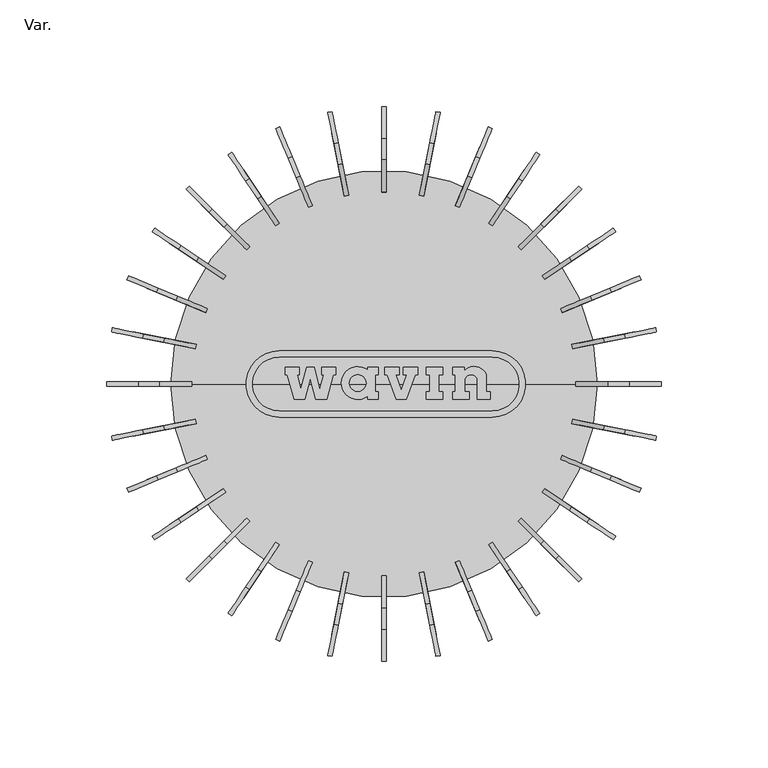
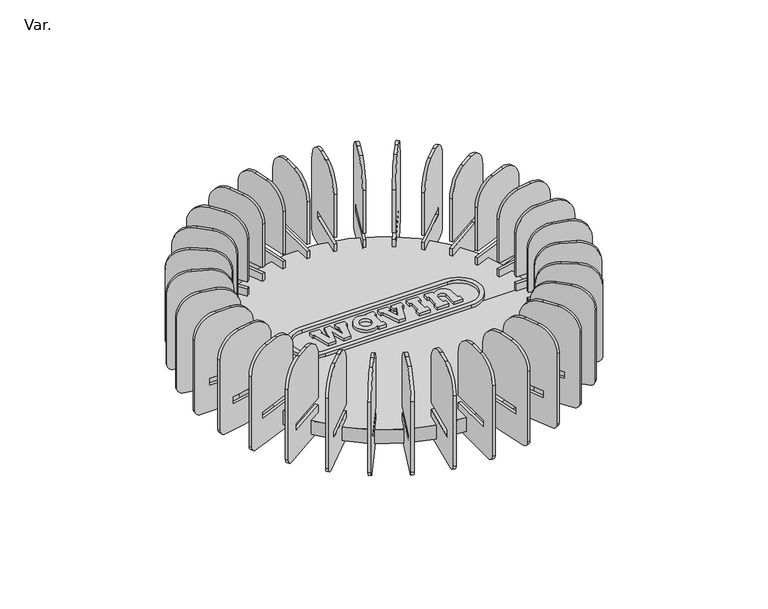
"""IFC4 building model written with IfcOpenShell, lengths in millimetres: sanitary terminal geometry, AmancoWavin_AquipamentosHidráulicos_QSBocaldeCaptação : Var.."""

from ifc_helpers import new_model, si_unit, point, frame, frame_2d, origin, place, context, project, spatial, polyline, circle_curve, trimmed, segment, composite_curve, outline, extrude, source, transform, mapped, element, save
from ifc_brep_helpers import plane_surface, cylinder_surface, advanced_brep


def var_c5092817(model_context):
    return source(origin(), model_context, "Body", "SolidModel", [
        extrude(outline(composite_curve([segment(trimmed(circle_curve(frame_2d((0.0, -4.0)), 4.0), [point((-4.0, -4.0))], [point((0.0, 0.0))], False, "CARTESIAN"), True, "CONTINUOUS"), segment(polyline([(0.0, 0.0), (15.0, 0.0), (15.0, -29.9999999), (20.0, -29.9999999), (20.0, 0.0), (51.0, 0.0)]), True, "CONTINUOUS"), segment(trimmed(circle_curve(frame_2d((51.0, -14.9999999)), 15.0), [point((51.0, 0.0))], [point((66.0, -14.9999999))], False, "CARTESIAN"), True, "CONTINUOUS"), segment(polyline([(66.0, -14.9999999), (66.0, -25.0)]), True, "CONTINUOUS"), segment(trimmed(circle_curve(frame_2d((51.0, -25.0)), 15.0), [point((66.0, -25.0))], [point((51.0, -40.0))], False, "CARTESIAN"), True, "CONTINUOUS"), segment(polyline([(51.0, -40.0), (0.0, -40.0)]), True, "CONTINUOUS"), segment(trimmed(circle_curve(frame_2d((0.0, -35.9999999)), 4.0), [point((0.0, -40.0))], [point((-4.0, -35.9999999))], False, "CARTESIAN"), True, "CONTINUOUS"), segment(polyline([(-4.0, -35.9999999), (-4.0, -4.0)]), True, "CONTINUOUS")], self_intersect=False)), frame((-83.5318414, 33.5176294, 4.0), z_axis=(0.3826834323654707, 0.9238795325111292, 0.0), x_axis=(0.0, 0.0, 1.0)), (0.0, 0.0, 1.0), 2.0),
        extrude(outline(composite_curve([segment(trimmed(circle_curve(frame_2d((0.0, -4.0)), 4.0), [point((-4.0, -4.0))], [point((0.0, 0.0))], False, "CARTESIAN"), True, "CONTINUOUS"), segment(polyline([(0.0, 0.0), (15.0, 0.0), (15.0, -30.0), (20.0, -30.0), (20.0, 0.0), (51.0, 0.0)]), True, "CONTINUOUS"), segment(trimmed(circle_curve(frame_2d((51.0, -15.0)), 15.0), [point((51.0, 0.0))], [point((66.0, -15.0))], False, "CARTESIAN"), True, "CONTINUOUS"), segment(polyline([(66.0, -15.0), (66.0, -25.0)]), True, "CONTINUOUS"), segment(trimmed(circle_curve(frame_2d((51.0, -25.0)), 15.0), [point((66.0, -25.0))], [point((51.0, -40.0))], False, "CARTESIAN"), True, "CONTINUOUS"), segment(polyline([(51.0, -40.0), (0.0, -40.0)]), True, "CONTINUOUS"), segment(trimmed(circle_curve(frame_2d((0.0, -36.0)), 4.0), [point((0.0, -40.0))], [point((-4.0, -36.0))], False, "CARTESIAN"), True, "CONTINUOUS"), segment(polyline([(-4.0, -36.0), (-4.0, -4.0)]), True, "CONTINUOUS")], self_intersect=False)), frame((-75.3878353, 49.1698514, 4.0), z_axis=(0.5555702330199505, 0.8314696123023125, 0.0), x_axis=(0.0, 0.0, 1.0)), (0.0, 0.0, 1.0), 2.0),
        extrude(outline(composite_curve([segment(trimmed(circle_curve(frame_2d((0.0, -4.0)), 4.0), [point((-4.0, -4.0))], [point((0.0, 0.0))], False, "CARTESIAN"), True, "CONTINUOUS"), segment(polyline([(0.0, 0.0), (15.0, 0.0), (15.0, -30.0), (20.0, -30.0), (20.0, 0.0), (51.0, 0.0)]), True, "CONTINUOUS"), segment(trimmed(circle_curve(frame_2d((51.0, -15.0)), 15.0), [point((51.0, 0.0))], [point((66.0, -15.0))], False, "CARTESIAN"), True, "CONTINUOUS"), segment(polyline([(66.0, -15.0), (66.0, -25.0)]), True, "CONTINUOUS"), segment(trimmed(circle_curve(frame_2d((51.0, -25.0)), 15.0), [point((66.0, -25.0))], [point((51.0, -40.0))], False, "CARTESIAN"), True, "CONTINUOUS"), segment(polyline([(51.0, -40.0), (0.0, -40.0)]), True, "CONTINUOUS"), segment(trimmed(circle_curve(frame_2d((0.0, -36.0)), 4.0), [point((0.0, -40.0))], [point((-4.0, -36.0))], False, "CARTESIAN"), True, "CONTINUOUS"), segment(polyline([(-4.0, -36.0), (-4.0, -4.0)]), True, "CONTINUOUS")], self_intersect=False)), frame((-64.3467171, 62.9325035, 4.0), z_axis=(0.7071067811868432, 0.7071067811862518, 0.0), x_axis=(0.0, 0.0, 1.0)), (0.0, 0.0, 1.0), 2.0),
        extrude(outline(composite_curve([segment(trimmed(circle_curve(frame_2d((0.0, -3.9999999)), 4.0), [point((-4.0, -3.9999999))], [point((0.0, 0.0))], False, "CARTESIAN"), True, "CONTINUOUS"), segment(polyline([(0.0, 0.0), (15.0, 0.0), (15.0, -29.9999999), (20.0, -29.9999999), (20.0, 0.0), (51.0, 0.0)]), True, "CONTINUOUS"), segment(trimmed(circle_curve(frame_2d((51.0, -15.0)), 15.0), [point((51.0, 0.0))], [point((66.0, -15.0))], False, "CARTESIAN"), True, "CONTINUOUS"), segment(polyline([(66.0, -15.0), (66.0, -25.0)]), True, "CONTINUOUS"), segment(trimmed(circle_curve(frame_2d((51.0, -25.0)), 15.0), [point((66.0, -25.0))], [point((51.0, -40.0))], False, "CARTESIAN"), True, "CONTINUOUS"), segment(polyline([(51.0, -40.0), (0.0, -40.0)]), True, "CONTINUOUS"), segment(trimmed(circle_curve(frame_2d((0.0, -36.0)), 4.0), [point((0.0, -40.0))], [point((-4.0, -36.0))], False, "CARTESIAN"), True, "CONTINUOUS"), segment(polyline([(-4.0, -36.0), (-4.0, -3.9999999)]), True, "CONTINUOUS")], self_intersect=False)), frame((-50.8327906, 74.2766949, 4.0), z_axis=(0.8314696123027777, 0.5555702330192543, 0.0), x_axis=(0.0, 0.0, 1.0)), (0.0, 0.0, 1.0), 2.0),
        extrude(outline(composite_curve([segment(trimmed(circle_curve(frame_2d((0.0, -4.0)), 4.0), [point((-4.0, -4.0))], [point((0.0, 0.0))], False, "CARTESIAN"), True, "CONTINUOUS"), segment(polyline([(0.0, 0.0), (15.0, 0.0), (15.0, -30.0), (20.0, -30.0), (20.0, 0.0), (51.0, 0.0)]), True, "CONTINUOUS"), segment(trimmed(circle_curve(frame_2d((51.0, -15.0)), 15.0), [point((51.0, 0.0))], [point((66.0, -15.0))], False, "CARTESIAN"), True, "CONTINUOUS"), segment(polyline([(66.0, -15.0), (66.0, -25.0)]), True, "CONTINUOUS"), segment(trimmed(circle_curve(frame_2d((51.0, -25.0)), 15.0), [point((66.0, -25.0))], [point((51.0, -40.0))], False, "CARTESIAN"), True, "CONTINUOUS"), segment(polyline([(51.0, -40.0), (0.0, -40.0)]), True, "CONTINUOUS"), segment(trimmed(circle_curve(frame_2d((0.0, -36.0)), 4.0), [point((0.0, -40.0))], [point((-4.0, -36.0))], False, "CARTESIAN"), True, "CONTINUOUS"), segment(polyline([(-4.0, -36.0), (-4.0, -4.0)]), True, "CONTINUOUS")], self_intersect=False)), frame((-35.3653884, 82.7664745, 4.0), z_axis=(0.9238795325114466, 0.3826834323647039, 0.0), x_axis=(0.0, 0.0, 1.0)), (0.0, 0.0, 1.0), 2.0),
        extrude(outline(composite_curve([segment(trimmed(circle_curve(frame_2d((0.0, -4.0)), 4.0), [point((-4.0, -4.0))], [point((0.0, 0.0))], False, "CARTESIAN"), True, "CONTINUOUS"), segment(polyline([(0.0, 0.0), (15.0, 0.0), (15.0, -30.0), (20.0, -30.0), (20.0, 0.0), (51.0, 0.0)]), True, "CONTINUOUS"), segment(trimmed(circle_curve(frame_2d((51.0, -15.0)), 15.0), [point((51.0, 0.0))], [point((66.0, -15.0))], False, "CARTESIAN"), True, "CONTINUOUS"), segment(polyline([(66.0, -15.0), (66.0, -25.0)]), True, "CONTINUOUS"), segment(trimmed(circle_curve(frame_2d((51.0, -25.0)), 15.0), [point((66.0, -25.0))], [point((51.0, -40.0))], False, "CARTESIAN"), True, "CONTINUOUS"), segment(polyline([(51.0, -40.0), (0.0, -40.0)]), True, "CONTINUOUS"), segment(trimmed(circle_curve(frame_2d((0.0, -36.0)), 4.0), [point((0.0, -40.0))], [point((-4.0, -36.0))], False, "CARTESIAN"), True, "CONTINUOUS"), segment(polyline([(-4.0, -36.0), (-4.0, -4.0)]), True, "CONTINUOUS")], self_intersect=False)), frame((-18.5389143, 88.0755849, 4.0), z_axis=(0.980785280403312, 0.19509032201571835, 0.0), x_axis=(0.0, 0.0, 1.0)), (0.0, 0.0, 1.0), 2.0),
        extrude(outline(composite_curve([segment(trimmed(circle_curve(frame_2d((94.0, 4.0)), 4.0), [point((94.0, 0.0))], [point((90.0, 4.0))], False, "CARTESIAN"), True, "CONTINUOUS"), segment(polyline([(90.0, 4.0), (90.0, 19.0), (120.0, 19.0), (120.0, 24.0), (90.0, 24.0), (90.0, 55.0)]), True, "CONTINUOUS"), segment(trimmed(circle_curve(frame_2d((105.0, 55.0)), 15.0), [point((90.0, 55.0))], [point((105.0, 70.0))], False, "CARTESIAN"), True, "CONTINUOUS"), segment(polyline([(105.0, 70.0), (115.0, 70.0)]), True, "CONTINUOUS"), segment(trimmed(circle_curve(frame_2d((115.0, 55.0)), 15.0), [point((115.0, 70.0))], [point((130.0, 55.0))], False, "CARTESIAN"), True, "CONTINUOUS"), segment(polyline([(130.0, 55.0), (130.0, 4.0)]), True, "CONTINUOUS"), segment(trimmed(circle_curve(frame_2d((126.0, 4.0)), 4.0), [point((130.0, 4.0))], [point((126.0, 0.0))], False, "CARTESIAN"), True, "CONTINUOUS"), segment(polyline([(126.0, 0.0), (94.0, 0.0)]), True, "CONTINUOUS")], self_intersect=False)), frame((-1.0, 0.0, 0.0), z_axis=(1.0, 0.0, 0.0), x_axis=(0.0, 1.0, 0.0)), (0.0, 0.0, 1.0), 2.0),
        extrude(outline(composite_curve([segment(polyline([(4.0, -4.0), (4.0, -36.0)]), True, "CONTINUOUS"), segment(trimmed(circle_curve(frame_2d((0.0, -36.0)), 4.0), [point((4.0, -36.0))], [point((0.0, -40.0))], False, "CARTESIAN"), True, "CONTINUOUS"), segment(polyline([(0.0, -40.0), (-51.0, -40.0)]), True, "CONTINUOUS"), segment(trimmed(circle_curve(frame_2d((-51.0, -25.0)), 15.0), [point((-51.0, -40.0))], [point((-66.0, -25.0))], False, "CARTESIAN"), True, "CONTINUOUS"), segment(polyline([(-66.0, -25.0), (-66.0, -15.0)]), True, "CONTINUOUS"), segment(trimmed(circle_curve(frame_2d((-51.0, -15.0)), 15.0), [point((-66.0, -15.0))], [point((-51.0, 0.0))], False, "CARTESIAN"), True, "CONTINUOUS"), segment(polyline([(-51.0, 0.0), (-20.0, 0.0), (-20.0, -30.0), (-15.0, -30.0), (-15.0, 0.0), (0.0, 0.0)]), True, "CONTINUOUS"), segment(trimmed(circle_curve(frame_2d((0.0, -4.0)), 4.0), [point((0.0, 0.0))], [point((4.0, -4.0))], False, "CARTESIAN"), True, "CONTINUOUS")], self_intersect=False)), frame((18.5389143, 88.0755849, 4.0), z_axis=(-0.9807852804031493, 0.19509032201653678, 0.0), x_axis=(0.0, 0.0, -1.0)), (0.0, 0.0, 1.0), 2.0),
        extrude(outline(composite_curve([segment(polyline([(4.0, -4.0), (4.0, -36.0)]), True, "CONTINUOUS"), segment(trimmed(circle_curve(frame_2d((0.0, -36.0)), 4.0), [point((4.0, -36.0))], [point((0.0, -40.0))], False, "CARTESIAN"), True, "CONTINUOUS"), segment(polyline([(0.0, -40.0), (-51.0, -40.0)]), True, "CONTINUOUS"), segment(trimmed(circle_curve(frame_2d((-51.0, -25.0)), 15.0), [point((-51.0, -40.0))], [point((-66.0, -25.0))], False, "CARTESIAN"), True, "CONTINUOUS"), segment(polyline([(-66.0, -25.0), (-66.0, -15.0)]), True, "CONTINUOUS"), segment(trimmed(circle_curve(frame_2d((-51.0, -15.0)), 15.0), [point((-66.0, -15.0))], [point((-51.0, 0.0))], False, "CARTESIAN"), True, "CONTINUOUS"), segment(polyline([(-51.0, 0.0), (-20.0, 0.0), (-20.0, -30.0), (-15.0, -30.0), (-15.0, 0.0), (0.0, 0.0)]), True, "CONTINUOUS"), segment(trimmed(circle_curve(frame_2d((0.0, -4.0)), 4.0), [point((0.0, 0.0))], [point((4.0, -4.0))], False, "CARTESIAN"), True, "CONTINUOUS")], self_intersect=False)), frame((35.3653884, 82.7664745, 4.0), z_axis=(-0.9238795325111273, 0.38268343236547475, 0.0), x_axis=(0.0, 0.0, -1.0)), (0.0, 0.0, 1.0), 2.0),
        extrude(outline(composite_curve([segment(polyline([(4.0, -3.9999999), (4.0, -36.0)]), True, "CONTINUOUS"), segment(trimmed(circle_curve(frame_2d((0.0, -36.0)), 4.0), [point((4.0, -36.0))], [point((0.0, -40.0))], False, "CARTESIAN"), True, "CONTINUOUS"), segment(polyline([(0.0, -40.0), (-51.0, -40.0)]), True, "CONTINUOUS"), segment(trimmed(circle_curve(frame_2d((-51.0, -25.0)), 15.0), [point((-51.0, -40.0))], [point((-66.0, -25.0))], False, "CARTESIAN"), True, "CONTINUOUS"), segment(polyline([(-66.0, -25.0), (-66.0, -15.0)]), True, "CONTINUOUS"), segment(trimmed(circle_curve(frame_2d((-51.0, -15.0)), 15.0), [point((-66.0, -15.0))], [point((-51.0, 0.0))], False, "CARTESIAN"), True, "CONTINUOUS"), segment(polyline([(-51.0, 0.0), (-20.0, 0.0), (-20.0, -29.9999999), (-15.0, -29.9999999), (-15.0, 0.0), (0.0, 0.0)]), True, "CONTINUOUS"), segment(trimmed(circle_curve(frame_2d((0.0, -3.9999999)), 4.0), [point((0.0, 0.0))], [point((4.0, -3.9999999))], False, "CARTESIAN"), True, "CONTINUOUS")], self_intersect=False)), frame((50.8327906, 74.2766949, 4.0), z_axis=(-0.8314696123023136, 0.5555702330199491, 0.0), x_axis=(0.0, 0.0, -1.0)), (0.0, 0.0, 1.0), 2.0),
        extrude(outline(composite_curve([segment(polyline([(4.0, -4.0), (4.0, -36.0)]), True, "CONTINUOUS"), segment(trimmed(circle_curve(frame_2d((0.0, -36.0)), 4.0), [point((4.0, -36.0))], [point((0.0, -40.0))], False, "CARTESIAN"), True, "CONTINUOUS"), segment(polyline([(0.0, -40.0), (-51.0, -40.0)]), True, "CONTINUOUS"), segment(trimmed(circle_curve(frame_2d((-51.0, -25.0)), 15.0), [point((-51.0, -40.0))], [point((-66.0, -25.0))], False, "CARTESIAN"), True, "CONTINUOUS"), segment(polyline([(-66.0, -25.0), (-66.0, -15.0)]), True, "CONTINUOUS"), segment(trimmed(circle_curve(frame_2d((-51.0, -15.0)), 15.0), [point((-66.0, -15.0))], [point((-51.0, 0.0))], False, "CARTESIAN"), True, "CONTINUOUS"), segment(polyline([(-51.0, 0.0), (-20.0, 0.0), (-20.0, -30.0), (-15.0, -30.0), (-15.0, 0.0), (0.0, 0.0)]), True, "CONTINUOUS"), segment(trimmed(circle_curve(frame_2d((0.0, -4.0)), 4.0), [point((0.0, 0.0))], [point((4.0, -4.0))], False, "CARTESIAN"), True, "CONTINUOUS")], self_intersect=False)), frame((64.3467171, 62.9325035, 4.0), z_axis=(-0.7071067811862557, 0.7071067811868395, 0.0), x_axis=(0.0, 0.0, -1.0)), (0.0, 0.0, 1.0), 2.0),
        extrude(outline(composite_curve([segment(polyline([(4.0, -4.0), (4.0, -36.0)]), True, "CONTINUOUS"), segment(trimmed(circle_curve(frame_2d((0.0, -36.0)), 4.0), [point((4.0, -36.0))], [point((0.0, -40.0))], False, "CARTESIAN"), True, "CONTINUOUS"), segment(polyline([(0.0, -40.0), (-51.0, -40.0)]), True, "CONTINUOUS"), segment(trimmed(circle_curve(frame_2d((-51.0, -25.0)), 15.0), [point((-51.0, -40.0))], [point((-66.0, -25.0))], False, "CARTESIAN"), True, "CONTINUOUS"), segment(polyline([(-66.0, -25.0), (-66.0, -15.0)]), True, "CONTINUOUS"), segment(trimmed(circle_curve(frame_2d((-51.0, -15.0)), 15.0), [point((-66.0, -15.0))], [point((-51.0, 0.0))], False, "CARTESIAN"), True, "CONTINUOUS"), segment(polyline([(-51.0, 0.0), (-20.0, 0.0), (-20.0, -30.0), (-15.0, -30.0), (-15.0, 0.0), (0.0, 0.0)]), True, "CONTINUOUS"), segment(trimmed(circle_curve(frame_2d((0.0, -4.0)), 4.0), [point((0.0, 0.0))], [point((4.0, -4.0))], False, "CARTESIAN"), True, "CONTINUOUS")], self_intersect=False)), frame((75.3878353, 49.1698514, 4.0), z_axis=(-0.5555702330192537, 0.8314696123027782, 0.0), x_axis=(0.0, 0.0, -1.0)), (0.0, 0.0, 1.0), 2.0),
        extrude(outline(composite_curve([segment(polyline([(4.0, -4.0), (4.0, -35.9999999)]), True, "CONTINUOUS"), segment(trimmed(circle_curve(frame_2d((0.0, -35.9999999)), 4.0), [point((4.0, -35.9999999))], [point((0.0, -40.0))], False, "CARTESIAN"), True, "CONTINUOUS"), segment(polyline([(0.0, -40.0), (-51.0, -40.0)]), True, "CONTINUOUS"), segment(trimmed(circle_curve(frame_2d((-51.0, -25.0)), 15.0), [point((-51.0, -40.0))], [point((-66.0, -25.0))], False, "CARTESIAN"), True, "CONTINUOUS"), segment(polyline([(-66.0, -25.0), (-66.0, -14.9999999)]), True, "CONTINUOUS"), segment(trimmed(circle_curve(frame_2d((-51.0, -14.9999999)), 15.0), [point((-66.0, -14.9999999))], [point((-51.0, 0.0))], False, "CARTESIAN"), True, "CONTINUOUS"), segment(polyline([(-51.0, 0.0), (-20.0, 0.0), (-20.0, -29.9999999), (-15.0, -29.9999999), (-15.0, 0.0), (0.0, 0.0)]), True, "CONTINUOUS"), segment(trimmed(circle_curve(frame_2d((0.0, -4.0)), 4.0), [point((0.0, 0.0))], [point((4.0, -4.0))], False, "CARTESIAN"), True, "CONTINUOUS")], self_intersect=False)), frame((83.5318414, 33.5176294, 4.0), z_axis=(-0.38268343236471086, 0.9238795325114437, 0.0), x_axis=(0.0, 0.0, -1.0)), (0.0, 0.0, 1.0), 2.0),
        extrude(outline(composite_curve([segment(polyline([(4.0, -4.0), (4.0, -36.0)]), True, "CONTINUOUS"), segment(trimmed(circle_curve(frame_2d((0.0, -36.0)), 4.0), [point((4.0, -36.0))], [point((0.0, -40.0))], False, "CARTESIAN"), True, "CONTINUOUS"), segment(polyline([(0.0, -40.0), (-51.0, -40.0)]), True, "CONTINUOUS"), segment(trimmed(circle_curve(frame_2d((-51.0, -25.0)), 15.0), [point((-51.0, -40.0))], [point((-66.0, -25.0))], False, "CARTESIAN"), True, "CONTINUOUS"), segment(polyline([(-66.0, -25.0), (-66.0, -15.0)]), True, "CONTINUOUS"), segment(trimmed(circle_curve(frame_2d((-51.0, -15.0)), 15.0), [point((-66.0, -15.0))], [point((-51.0, 0.0))], False, "CARTESIAN"), True, "CONTINUOUS"), segment(polyline([(-51.0, 0.0), (-20.0, 0.0), (-20.0, -30.0), (-15.0, -30.0), (-15.0, 0.0), (0.0, 0.0)]), True, "CONTINUOUS"), segment(trimmed(circle_curve(frame_2d((0.0, -4.0)), 4.0), [point((0.0, 0.0))], [point((4.0, -4.0))], False, "CARTESIAN"), True, "CONTINUOUS")], self_intersect=False)), frame((88.4657656, 16.5773437, 4.0), z_axis=(-0.19509032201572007, 0.9807852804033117, 0.0), x_axis=(0.0, 0.0, -1.0)), (0.0, 0.0, 1.0), 2.0),
        extrude(outline(composite_curve([segment(polyline([(0.0, 94.0), (0.0, 126.0)]), True, "CONTINUOUS"), segment(trimmed(circle_curve(frame_2d((4.0, 126.0)), 4.0), [point((0.0, 126.0))], [point((4.0, 130.0))], False, "CARTESIAN"), True, "CONTINUOUS"), segment(polyline([(4.0, 130.0), (55.0, 130.0)]), True, "CONTINUOUS"), segment(trimmed(circle_curve(frame_2d((55.0, 115.0)), 15.0), [point((55.0, 130.0))], [point((70.0, 115.0))], False, "CARTESIAN"), True, "CONTINUOUS"), segment(polyline([(70.0, 115.0), (70.0, 105.0)]), True, "CONTINUOUS"), segment(trimmed(circle_curve(frame_2d((55.0, 105.0)), 15.0), [point((70.0, 105.0))], [point((55.0, 90.0))], False, "CARTESIAN"), True, "CONTINUOUS"), segment(polyline([(55.0, 90.0), (24.0, 90.0), (24.0, 120.0), (19.0, 120.0), (19.0, 90.0), (4.0, 90.0)]), True, "CONTINUOUS"), segment(trimmed(circle_curve(frame_2d((4.0, 94.0)), 4.0), [point((4.0, 90.0))], [point((0.0, 94.0))], False, "CARTESIAN"), True, "CONTINUOUS")], self_intersect=False)), frame((0.0, -1.0, 0.0), z_axis=(0.0, 1.0, 0.0), x_axis=(0.0, 0.0, 1.0)), (0.0, 0.0, 1.0), 2.0),
        extrude(outline(composite_curve([segment(polyline([(4.0, -4.0), (4.0, -36.0)]), True, "CONTINUOUS"), segment(trimmed(circle_curve(frame_2d((0.0, -36.0)), 4.0), [point((4.0, -36.0))], [point((0.0, -40.0))], False, "CARTESIAN"), True, "CONTINUOUS"), segment(polyline([(0.0, -40.0), (-51.0, -40.0)]), True, "CONTINUOUS"), segment(trimmed(circle_curve(frame_2d((-51.0, -25.0)), 15.0), [point((-51.0, -40.0))], [point((-66.0, -25.0))], False, "CARTESIAN"), True, "CONTINUOUS"), segment(polyline([(-66.0, -25.0), (-66.0, -15.0)]), True, "CONTINUOUS"), segment(trimmed(circle_curve(frame_2d((-51.0, -15.0)), 15.0), [point((-66.0, -15.0))], [point((-51.0, 0.0))], False, "CARTESIAN"), True, "CONTINUOUS"), segment(polyline([(-51.0, 0.0), (-20.0, 0.0), (-20.0, -30.0), (-15.0, -30.0), (-15.0, 0.0), (0.0, 0.0)]), True, "CONTINUOUS"), segment(trimmed(circle_curve(frame_2d((0.0, -4.0)), 4.0), [point((0.0, 0.0))], [point((4.0, -4.0))], False, "CARTESIAN"), True, "CONTINUOUS")], self_intersect=False)), frame((88.0755849, -18.5389143, 4.0), z_axis=(0.19509032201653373, 0.9807852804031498, 0.0), x_axis=(0.0, 0.0, -1.0)), (0.0, 0.0, 1.0), 2.0),
        extrude(outline(composite_curve([segment(polyline([(4.0, -4.0), (4.0, -36.0)]), True, "CONTINUOUS"), segment(trimmed(circle_curve(frame_2d((0.0, -36.0)), 4.0), [point((4.0, -36.0))], [point((0.0, -40.0))], False, "CARTESIAN"), True, "CONTINUOUS"), segment(polyline([(0.0, -40.0), (-51.0, -40.0)]), True, "CONTINUOUS"), segment(trimmed(circle_curve(frame_2d((-51.0, -25.0)), 15.0), [point((-51.0, -40.0))], [point((-66.0, -25.0))], False, "CARTESIAN"), True, "CONTINUOUS"), segment(polyline([(-66.0, -25.0), (-66.0, -15.0)]), True, "CONTINUOUS"), segment(trimmed(circle_curve(frame_2d((-51.0, -15.0)), 15.0), [point((-66.0, -15.0))], [point((-51.0, 0.0))], False, "CARTESIAN"), True, "CONTINUOUS"), segment(polyline([(-51.0, 0.0), (-20.0, 0.0), (-20.0, -30.0), (-15.0, -30.0), (-15.0, 0.0), (0.0, 0.0)]), True, "CONTINUOUS"), segment(trimmed(circle_curve(frame_2d((0.0, -4.0)), 4.0), [point((0.0, 0.0))], [point((4.0, -4.0))], False, "CARTESIAN"), True, "CONTINUOUS")], self_intersect=False)), frame((82.7664745, -35.3653884, 4.0), z_axis=(0.3826834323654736, 0.9238795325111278, 0.0), x_axis=(0.0, 0.0, -1.0)), (0.0, 0.0, 1.0), 2.0),
        extrude(outline(composite_curve([segment(polyline([(4.0, -3.9999999), (4.0, -36.0)]), True, "CONTINUOUS"), segment(trimmed(circle_curve(frame_2d((0.0, -36.0)), 4.0), [point((4.0, -36.0))], [point((0.0, -40.0))], False, "CARTESIAN"), True, "CONTINUOUS"), segment(polyline([(0.0, -40.0), (-51.0, -40.0)]), True, "CONTINUOUS"), segment(trimmed(circle_curve(frame_2d((-51.0, -25.0)), 15.0), [point((-51.0, -40.0))], [point((-66.0, -25.0))], False, "CARTESIAN"), True, "CONTINUOUS"), segment(polyline([(-66.0, -25.0), (-66.0, -15.0)]), True, "CONTINUOUS"), segment(trimmed(circle_curve(frame_2d((-51.0, -15.0)), 15.0), [point((-66.0, -15.0))], [point((-51.0, 0.0))], False, "CARTESIAN"), True, "CONTINUOUS"), segment(polyline([(-51.0, 0.0), (-20.0, 0.0), (-20.0, -29.9999999), (-15.0, -29.9999999), (-15.0, 0.0), (0.0, 0.0)]), True, "CONTINUOUS"), segment(trimmed(circle_curve(frame_2d((0.0, -3.9999999)), 4.0), [point((0.0, 0.0))], [point((4.0, -3.9999999))], False, "CARTESIAN"), True, "CONTINUOUS")], self_intersect=False)), frame((74.2766949, -50.8327906, 4.0), z_axis=(0.5555702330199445, 0.8314696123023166, 0.0), x_axis=(0.0, 0.0, -1.0)), (0.0, 0.0, 1.0), 2.0),
        extrude(outline(composite_curve([segment(polyline([(4.0, -4.0), (4.0, -36.0)]), True, "CONTINUOUS"), segment(trimmed(circle_curve(frame_2d((0.0, -36.0)), 4.0), [point((4.0, -36.0))], [point((0.0, -40.0))], False, "CARTESIAN"), True, "CONTINUOUS"), segment(polyline([(0.0, -40.0), (-51.0, -40.0)]), True, "CONTINUOUS"), segment(trimmed(circle_curve(frame_2d((-51.0, -25.0)), 15.0), [point((-51.0, -40.0))], [point((-66.0, -25.0))], False, "CARTESIAN"), True, "CONTINUOUS"), segment(polyline([(-66.0, -25.0), (-66.0, -15.0)]), True, "CONTINUOUS"), segment(trimmed(circle_curve(frame_2d((-51.0, -15.0)), 15.0), [point((-66.0, -15.0))], [point((-51.0, 0.0))], False, "CARTESIAN"), True, "CONTINUOUS"), segment(polyline([(-51.0, 0.0), (-20.0, 0.0), (-20.0, -30.0), (-15.0, -30.0), (-15.0, 0.0), (0.0, 0.0)]), True, "CONTINUOUS"), segment(trimmed(circle_curve(frame_2d((0.0, -4.0)), 4.0), [point((0.0, 0.0))], [point((4.0, -4.0))], False, "CARTESIAN"), True, "CONTINUOUS")], self_intersect=False)), frame((62.9325035, -64.3467171, 4.0), z_axis=(0.7071067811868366, 0.7071067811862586, 0.0), x_axis=(0.0, 0.0, -1.0)), (0.0, 0.0, 1.0), 2.0),
        extrude(outline(composite_curve([segment(polyline([(4.0, -4.0), (4.0, -36.0)]), True, "CONTINUOUS"), segment(trimmed(circle_curve(frame_2d((0.0, -36.0)), 4.0), [point((4.0, -36.0))], [point((0.0, -40.0))], False, "CARTESIAN"), True, "CONTINUOUS"), segment(polyline([(0.0, -40.0), (-51.0, -40.0)]), True, "CONTINUOUS"), segment(trimmed(circle_curve(frame_2d((-51.0, -25.0)), 15.0), [point((-51.0, -40.0))], [point((-66.0, -25.0))], False, "CARTESIAN"), True, "CONTINUOUS"), segment(polyline([(-66.0, -25.0), (-66.0, -15.0)]), True, "CONTINUOUS"), segment(trimmed(circle_curve(frame_2d((-51.0, -15.0)), 15.0), [point((-66.0, -15.0))], [point((-51.0, 0.0))], False, "CARTESIAN"), True, "CONTINUOUS"), segment(polyline([(-51.0, 0.0), (-20.0, 0.0), (-20.0, -30.0), (-15.0, -30.0), (-15.0, 0.0), (0.0, 0.0)]), True, "CONTINUOUS"), segment(trimmed(circle_curve(frame_2d((0.0, -4.0)), 4.0), [point((0.0, 0.0))], [point((4.0, -4.0))], False, "CARTESIAN"), True, "CONTINUOUS")], self_intersect=False)), frame((49.1698514, -75.3878353, 4.0), z_axis=(0.8314696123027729, 0.5555702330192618, 0.0), x_axis=(0.0, 0.0, -1.0)), (0.0, 0.0, 1.0), 2.0),
        extrude(outline(composite_curve([segment(polyline([(4.0, -4.0), (4.0, -35.9999999)]), True, "CONTINUOUS"), segment(trimmed(circle_curve(frame_2d((0.0, -35.9999999)), 4.0), [point((4.0, -35.9999999))], [point((0.0, -40.0))], False, "CARTESIAN"), True, "CONTINUOUS"), segment(polyline([(0.0, -40.0), (-51.0, -40.0)]), True, "CONTINUOUS"), segment(trimmed(circle_curve(frame_2d((-51.0, -25.0)), 15.0), [point((-51.0, -40.0))], [point((-66.0, -25.0))], False, "CARTESIAN"), True, "CONTINUOUS"), segment(polyline([(-66.0, -25.0), (-66.0, -14.9999999)]), True, "CONTINUOUS"), segment(trimmed(circle_curve(frame_2d((-51.0, -14.9999999)), 15.0), [point((-66.0, -14.9999999))], [point((-51.0, 0.0))], False, "CARTESIAN"), True, "CONTINUOUS"), segment(polyline([(-51.0, 0.0), (-20.0, 0.0), (-20.0, -29.9999999), (-15.0, -29.9999999), (-15.0, 0.0), (0.0, 0.0)]), True, "CONTINUOUS"), segment(trimmed(circle_curve(frame_2d((0.0, -4.0)), 4.0), [point((0.0, 0.0))], [point((4.0, -4.0))], False, "CARTESIAN"), True, "CONTINUOUS")], self_intersect=False)), frame((33.5176294, -83.5318414, 4.0), z_axis=(0.9238795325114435, 0.3826834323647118, 0.0), x_axis=(0.0, 0.0, -1.0)), (0.0, 0.0, 1.0), 2.0),
        extrude(outline(composite_curve([segment(polyline([(4.0, -4.0), (4.0, -36.0)]), True, "CONTINUOUS"), segment(trimmed(circle_curve(frame_2d((0.0, -36.0)), 4.0), [point((4.0, -36.0))], [point((0.0, -40.0))], False, "CARTESIAN"), True, "CONTINUOUS"), segment(polyline([(0.0, -40.0), (-51.0, -40.0)]), True, "CONTINUOUS"), segment(trimmed(circle_curve(frame_2d((-51.0, -25.0)), 15.0), [point((-51.0, -40.0))], [point((-66.0, -25.0))], False, "CARTESIAN"), True, "CONTINUOUS"), segment(polyline([(-66.0, -25.0), (-66.0, -15.0)]), True, "CONTINUOUS"), segment(trimmed(circle_curve(frame_2d((-51.0, -15.0)), 15.0), [point((-66.0, -15.0))], [point((-51.0, 0.0))], False, "CARTESIAN"), True, "CONTINUOUS"), segment(polyline([(-51.0, 0.0), (-20.0, 0.0), (-20.0, -30.0), (-15.0, -30.0), (-15.0, 0.0), (0.0, 0.0)]), True, "CONTINUOUS"), segment(trimmed(circle_curve(frame_2d((0.0, -4.0)), 4.0), [point((0.0, 0.0))], [point((4.0, -4.0))], False, "CARTESIAN"), True, "CONTINUOUS")], self_intersect=False)), frame((16.5773437, -88.4657656, 4.0), z_axis=(0.9807852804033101, 0.1950903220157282, 0.0), x_axis=(0.0, 0.0, -1.0)), (0.0, 0.0, 1.0), 2.0),
        extrude(outline(composite_curve([segment(polyline([(-94.0, 0.0), (-126.0, 0.0)]), True, "CONTINUOUS"), segment(trimmed(circle_curve(frame_2d((-126.0, 4.0)), 4.0), [point((-126.0, 0.0))], [point((-130.0, 4.0))], False, "CARTESIAN"), True, "CONTINUOUS"), segment(polyline([(-130.0, 4.0), (-130.0, 55.0)]), True, "CONTINUOUS"), segment(trimmed(circle_curve(frame_2d((-115.0, 55.0)), 15.0), [point((-130.0, 55.0))], [point((-115.0, 70.0))], False, "CARTESIAN"), True, "CONTINUOUS"), segment(polyline([(-115.0, 70.0), (-105.0, 70.0)]), True, "CONTINUOUS"), segment(trimmed(circle_curve(frame_2d((-105.0, 55.0)), 15.0), [point((-105.0, 70.0))], [point((-90.0, 55.0))], False, "CARTESIAN"), True, "CONTINUOUS"), segment(polyline([(-90.0, 55.0), (-90.0, 24.0), (-120.0, 24.0), (-120.0, 19.0), (-90.0, 19.0), (-90.0, 4.0)]), True, "CONTINUOUS"), segment(trimmed(circle_curve(frame_2d((-94.0, 4.0)), 4.0), [point((-90.0, 4.0))], [point((-94.0, 0.0))], False, "CARTESIAN"), True, "CONTINUOUS")], self_intersect=False)), frame((-1.0, 0.0, 0.0), z_axis=(1.0, 0.0, 0.0), x_axis=(0.0, 1.0, 0.0)), (0.0, 0.0, 1.0), 2.0),
        extrude(outline(composite_curve([segment(trimmed(circle_curve(frame_2d((0.0, -4.0)), 4.0), [point((-4.0, -4.0))], [point((0.0, 0.0))], False, "CARTESIAN"), True, "CONTINUOUS"), segment(polyline([(0.0, 0.0), (15.0, 0.0), (15.0, -30.0), (20.0, -30.0), (20.0, 0.0), (51.0, 0.0)]), True, "CONTINUOUS"), segment(trimmed(circle_curve(frame_2d((51.0, -15.0)), 15.0), [point((51.0, 0.0))], [point((66.0, -15.0))], False, "CARTESIAN"), True, "CONTINUOUS"), segment(polyline([(66.0, -15.0), (66.0, -25.0)]), True, "CONTINUOUS"), segment(trimmed(circle_curve(frame_2d((51.0, -25.0)), 15.0), [point((66.0, -25.0))], [point((51.0, -40.0))], False, "CARTESIAN"), True, "CONTINUOUS"), segment(polyline([(51.0, -40.0), (0.0, -40.0)]), True, "CONTINUOUS"), segment(trimmed(circle_curve(frame_2d((0.0, -36.0)), 4.0), [point((0.0, -40.0))], [point((-4.0, -36.0))], False, "CARTESIAN"), True, "CONTINUOUS"), segment(polyline([(-4.0, -36.0), (-4.0, -4.0)]), True, "CONTINUOUS")], self_intersect=False)), frame((-16.5773437, -88.4657656, 4.0), z_axis=(-0.9807852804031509, 0.19509032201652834, 0.0), x_axis=(0.0, 0.0, 1.0)), (0.0, 0.0, 1.0), 2.0),
        extrude(outline(composite_curve([segment(trimmed(circle_curve(frame_2d((0.0, -4.0)), 4.0), [point((-4.0, -4.0))], [point((0.0, 0.0))], False, "CARTESIAN"), True, "CONTINUOUS"), segment(polyline([(0.0, 0.0), (15.0, 0.0), (15.0, -29.9999999), (20.0, -29.9999999), (20.0, 0.0), (51.0, 0.0)]), True, "CONTINUOUS"), segment(trimmed(circle_curve(frame_2d((51.0, -14.9999999)), 15.0), [point((51.0, 0.0))], [point((66.0, -14.9999999))], False, "CARTESIAN"), True, "CONTINUOUS"), segment(polyline([(66.0, -14.9999999), (66.0, -25.0)]), True, "CONTINUOUS"), segment(trimmed(circle_curve(frame_2d((51.0, -25.0)), 15.0), [point((66.0, -25.0))], [point((51.0, -40.0))], False, "CARTESIAN"), True, "CONTINUOUS"), segment(polyline([(51.0, -40.0), (0.0, -40.0)]), True, "CONTINUOUS"), segment(trimmed(circle_curve(frame_2d((0.0, -35.9999999)), 4.0), [point((0.0, -40.0))], [point((-4.0, -35.9999999))], False, "CARTESIAN"), True, "CONTINUOUS"), segment(polyline([(-4.0, -35.9999999), (-4.0, -4.0)]), True, "CONTINUOUS")], self_intersect=False)), frame((-33.5176294, -83.5318414, 4.0), z_axis=(-0.9238795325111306, 0.3826834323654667, 0.0), x_axis=(0.0, 0.0, 1.0)), (0.0, 0.0, 1.0), 2.0),
        extrude(outline(composite_curve([segment(trimmed(circle_curve(frame_2d((0.0, -4.0)), 4.0), [point((-4.0, -4.0))], [point((0.0, 0.0))], False, "CARTESIAN"), True, "CONTINUOUS"), segment(polyline([(0.0, 0.0), (15.0, 0.0), (15.0, -30.0), (20.0, -30.0), (20.0, 0.0), (51.0, 0.0)]), True, "CONTINUOUS"), segment(trimmed(circle_curve(frame_2d((51.0, -15.0)), 15.0), [point((51.0, 0.0))], [point((66.0, -15.0))], False, "CARTESIAN"), True, "CONTINUOUS"), segment(polyline([(66.0, -15.0), (66.0, -25.0)]), True, "CONTINUOUS"), segment(trimmed(circle_curve(frame_2d((51.0, -25.0)), 15.0), [point((66.0, -25.0))], [point((51.0, -40.0))], False, "CARTESIAN"), True, "CONTINUOUS"), segment(polyline([(51.0, -40.0), (0.0, -40.0)]), True, "CONTINUOUS"), segment(trimmed(circle_curve(frame_2d((0.0, -36.0)), 4.0), [point((0.0, -40.0))], [point((-4.0, -36.0))], False, "CARTESIAN"), True, "CONTINUOUS"), segment(polyline([(-4.0, -36.0), (-4.0, -4.0)]), True, "CONTINUOUS")], self_intersect=False)), frame((-49.1698514, -75.3878353, 4.0), z_axis=(-0.8314696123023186, 0.5555702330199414, 0.0), x_axis=(0.0, 0.0, 1.0)), (0.0, 0.0, 1.0), 2.0),
        extrude(outline(composite_curve([segment(trimmed(circle_curve(frame_2d((0.0, -4.0)), 4.0), [point((-4.0, -4.0))], [point((0.0, 0.0))], False, "CARTESIAN"), True, "CONTINUOUS"), segment(polyline([(0.0, 0.0), (15.0, 0.0), (15.0, -30.0), (20.0, -30.0), (20.0, 0.0), (51.0, 0.0)]), True, "CONTINUOUS"), segment(trimmed(circle_curve(frame_2d((51.0, -15.0)), 15.0), [point((51.0, 0.0))], [point((66.0, -15.0))], False, "CARTESIAN"), True, "CONTINUOUS"), segment(polyline([(66.0, -15.0), (66.0, -25.0)]), True, "CONTINUOUS"), segment(trimmed(circle_curve(frame_2d((51.0, -25.0)), 15.0), [point((66.0, -25.0))], [point((51.0, -40.0))], False, "CARTESIAN"), True, "CONTINUOUS"), segment(polyline([(51.0, -40.0), (0.0, -40.0)]), True, "CONTINUOUS"), segment(trimmed(circle_curve(frame_2d((0.0, -36.0)), 4.0), [point((0.0, -40.0))], [point((-4.0, -36.0))], False, "CARTESIAN"), True, "CONTINUOUS"), segment(polyline([(-4.0, -36.0), (-4.0, -4.0)]), True, "CONTINUOUS")], self_intersect=False)), frame((-62.9325035, -64.3467171, 4.0), z_axis=(-0.7071067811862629, 0.7071067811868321, 0.0), x_axis=(0.0, 0.0, 1.0)), (0.0, 0.0, 1.0), 2.0),
        extrude(outline(composite_curve([segment(trimmed(circle_curve(frame_2d((0.0, -3.9999999)), 4.0), [point((-4.0, -3.9999999))], [point((0.0, 0.0))], False, "CARTESIAN"), True, "CONTINUOUS"), segment(polyline([(0.0, 0.0), (15.0, 0.0), (15.0, -29.9999999), (20.0, -29.9999999), (20.0, 0.0), (51.0, 0.0)]), True, "CONTINUOUS"), segment(trimmed(circle_curve(frame_2d((51.0, -15.0)), 15.0), [point((51.0, 0.0))], [point((66.0, -15.0))], False, "CARTESIAN"), True, "CONTINUOUS"), segment(polyline([(66.0, -15.0), (66.0, -25.0)]), True, "CONTINUOUS"), segment(trimmed(circle_curve(frame_2d((51.0, -25.0)), 15.0), [point((66.0, -25.0))], [point((51.0, -40.0))], False, "CARTESIAN"), True, "CONTINUOUS"), segment(polyline([(51.0, -40.0), (0.0, -40.0)]), True, "CONTINUOUS"), segment(trimmed(circle_curve(frame_2d((0.0, -36.0)), 4.0), [point((0.0, -40.0))], [point((-4.0, -36.0))], False, "CARTESIAN"), True, "CONTINUOUS"), segment(polyline([(-4.0, -36.0), (-4.0, -3.9999999)]), True, "CONTINUOUS")], self_intersect=False)), frame((-74.2766949, -50.8327906, 4.0), z_axis=(-0.5555702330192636, 0.8314696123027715, 0.0), x_axis=(0.0, 0.0, 1.0)), (0.0, 0.0, 1.0), 2.0),
        extrude(outline(composite_curve([segment(trimmed(circle_curve(frame_2d((0.0, -4.0)), 4.0), [point((-4.0, -4.0))], [point((0.0, 0.0))], False, "CARTESIAN"), True, "CONTINUOUS"), segment(polyline([(0.0, 0.0), (15.0, 0.0), (15.0, -30.0), (20.0, -30.0), (20.0, 0.0), (51.0, 0.0)]), True, "CONTINUOUS"), segment(trimmed(circle_curve(frame_2d((51.0, -15.0)), 15.0), [point((51.0, 0.0))], [point((66.0, -15.0))], False, "CARTESIAN"), True, "CONTINUOUS"), segment(polyline([(66.0, -15.0), (66.0, -25.0)]), True, "CONTINUOUS"), segment(trimmed(circle_curve(frame_2d((51.0, -25.0)), 15.0), [point((66.0, -25.0))], [point((51.0, -40.0))], False, "CARTESIAN"), True, "CONTINUOUS"), segment(polyline([(51.0, -40.0), (0.0, -40.0)]), True, "CONTINUOUS"), segment(trimmed(circle_curve(frame_2d((0.0, -36.0)), 4.0), [point((0.0, -40.0))], [point((-4.0, -36.0))], False, "CARTESIAN"), True, "CONTINUOUS"), segment(polyline([(-4.0, -36.0), (-4.0, -4.0)]), True, "CONTINUOUS")], self_intersect=False)), frame((-82.7664745, -35.3653884, 4.0), z_axis=(-0.3826834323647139, 0.9238795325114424, 0.0), x_axis=(0.0, 0.0, 1.0)), (0.0, 0.0, 1.0), 2.0),
        extrude(outline(composite_curve([segment(trimmed(circle_curve(frame_2d((0.0, -4.0)), 4.0), [point((-4.0, -4.0))], [point((0.0, 0.0))], False, "CARTESIAN"), True, "CONTINUOUS"), segment(polyline([(0.0, 0.0), (15.0, 0.0), (15.0, -30.0), (20.0, -30.0), (20.0, 0.0), (51.0, 0.0)]), True, "CONTINUOUS"), segment(trimmed(circle_curve(frame_2d((51.0, -15.0)), 15.0), [point((51.0, 0.0))], [point((66.0, -15.0))], False, "CARTESIAN"), True, "CONTINUOUS"), segment(polyline([(66.0, -15.0), (66.0, -25.0)]), True, "CONTINUOUS"), segment(trimmed(circle_curve(frame_2d((51.0, -25.0)), 15.0), [point((66.0, -25.0))], [point((51.0, -40.0))], False, "CARTESIAN"), True, "CONTINUOUS"), segment(polyline([(51.0, -40.0), (0.0, -40.0)]), True, "CONTINUOUS"), segment(trimmed(circle_curve(frame_2d((0.0, -36.0)), 4.0), [point((0.0, -40.0))], [point((-4.0, -36.0))], False, "CARTESIAN"), True, "CONTINUOUS"), segment(polyline([(-4.0, -36.0), (-4.0, -4.0)]), True, "CONTINUOUS")], self_intersect=False)), frame((-88.0755849, -18.5389143, 4.0), z_axis=(-0.1950903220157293, 0.9807852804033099, 0.0), x_axis=(0.0, 0.0, 1.0)), (0.0, 0.0, 1.0), 2.0),
        extrude(outline(composite_curve([segment(trimmed(circle_curve(frame_2d((0.0, -4.0)), 4.0), [point((-4.0, -4.0))], [point((0.0, 0.0))], False, "CARTESIAN"), True, "CONTINUOUS"), segment(polyline([(0.0, 0.0), (15.0, 0.0), (15.0, -30.0), (20.0, -30.0), (20.0, 0.0), (51.0, 0.0)]), True, "CONTINUOUS"), segment(trimmed(circle_curve(frame_2d((51.0, -15.0)), 15.0), [point((51.0, 0.0))], [point((66.0, -15.0))], False, "CARTESIAN"), True, "CONTINUOUS"), segment(polyline([(66.0, -15.0), (66.0, -25.0)]), True, "CONTINUOUS"), segment(trimmed(circle_curve(frame_2d((51.0, -25.0)), 15.0), [point((66.0, -25.0))], [point((51.0, -40.0))], False, "CARTESIAN"), True, "CONTINUOUS"), segment(polyline([(51.0, -40.0), (0.0, -40.0)]), True, "CONTINUOUS"), segment(trimmed(circle_curve(frame_2d((0.0, -36.0)), 4.0), [point((0.0, -40.0))], [point((-4.0, -36.0))], False, "CARTESIAN"), True, "CONTINUOUS"), segment(polyline([(-4.0, -36.0), (-4.0, -4.0)]), True, "CONTINUOUS")], self_intersect=False)), frame((-88.4657656, 16.5773437, 4.0), z_axis=(0.19509032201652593, 0.9807852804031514, 0.0), x_axis=(0.0, 0.0, 1.0)), (0.0, 0.0, 1.0), 2.0),
        extrude(outline(composite_curve([segment(trimmed(circle_curve(frame_2d((4.0, -94.0)), 4.0), [point((0.0, -94.0))], [point((4.0, -90.0))], False, "CARTESIAN"), True, "CONTINUOUS"), segment(polyline([(4.0, -90.0), (19.0, -90.0), (19.0, -120.0), (24.0, -120.0), (24.0, -90.0), (55.0, -90.0)]), True, "CONTINUOUS"), segment(trimmed(circle_curve(frame_2d((55.0, -105.0)), 15.0), [point((55.0, -90.0))], [point((70.0, -105.0))], False, "CARTESIAN"), True, "CONTINUOUS"), segment(polyline([(70.0, -105.0), (70.0, -115.0)]), True, "CONTINUOUS"), segment(trimmed(circle_curve(frame_2d((55.0, -115.0)), 15.0), [point((70.0, -115.0))], [point((55.0, -130.0))], False, "CARTESIAN"), True, "CONTINUOUS"), segment(polyline([(55.0, -130.0), (4.0, -130.0)]), True, "CONTINUOUS"), segment(trimmed(circle_curve(frame_2d((4.0, -126.0)), 4.0), [point((4.0, -130.0))], [point((0.0, -126.0))], False, "CARTESIAN"), True, "CONTINUOUS"), segment(polyline([(0.0, -126.0), (0.0, -94.0)]), True, "CONTINUOUS")], self_intersect=False)), frame((0.0, -1.0, 0.0), z_axis=(0.0, 1.0, 0.0), x_axis=(0.0, 0.0, 1.0)), (0.0, 0.0, 1.0), 2.0),
        extrude(outline(composite_curve([segment(trimmed(circle_curve(frame_2d((50.8526232, 0.0)), 15.4893844), [point((50.8526232, 15.4893844))], [point((50.8526232, -15.4893844))], False, "CARTESIAN"), True, "CONTINUOUS"), segment(polyline([(50.8526232, -15.4893844), (-49.1473768, -15.4893844)]), True, "CONTINUOUS"), segment(trimmed(circle_curve(frame_2d((-49.1473768, 0.0)), 15.4893844), [point((-49.1473768, -15.4893844))], [point((-49.1473768, 15.4893844))], False, "CARTESIAN"), True, "CONTINUOUS"), segment(polyline([(-49.1473768, 15.4893844), (50.8526232, 15.4893844)]), True, "CONTINUOUS")], self_intersect=False), holes=[composite_curve([segment(polyline([(50.8526232, 12.4893844), (-49.1473768, 12.4893844)]), True, "CONTINUOUS"), segment(trimmed(circle_curve(frame_2d((-49.1473768, 0.0)), 12.4893844), [point((-49.1473768, 12.4893844))], [point((-49.1473768, -12.4893844))], True, "CARTESIAN"), True, "CONTINUOUS"), segment(polyline([(-49.1473768, -12.4893844), (50.8526232, -12.4893844)]), True, "CONTINUOUS"), segment(trimmed(circle_curve(frame_2d((50.8526232, 0.0)), 12.4893844), [point((50.8526232, -12.4893844))], [point((50.8526232, 12.4893844))], True, "CARTESIAN"), True, "CONTINUOUS")], self_intersect=False)]), frame((0.0, 0.0, 23.96875), z_axis=(0.0, 0.0, 1.0), x_axis=(1.0, 0.0, 0.0)), (0.0, 0.0, 1.0), 2.0),
        extrude(outline(polyline([(-39.7705089, 7.8291409), (-39.7705089, 4.3291409), (-40.7705089, 4.3291409), (-38.9632887, -2.4154967), (-36.2182463, 7.8291409), (-32.7477543, 7.8291409), (-30.0027119, -2.4154967), (-28.1954917, 4.3291409), (-29.1954917, 4.3291409), (-29.1954917, 7.8291409), (-22.6954917, 7.8291409), (-22.6954917, 4.3291409), (-23.6954917, 4.3291409), (-26.7948098, -7.2376719), (-31.8948098, -7.2376719), (-34.4830003, 2.4215864), (-37.0711907, -7.2376719), (-42.1711907, -7.2376719), (-45.2705089, 4.3291409), (-46.2705089, 4.3291409), (-46.2705089, 7.8291409), (-39.7705089, 7.8291409)])), frame((0.0, 0.0, 23.96875), z_axis=(0.0, 0.0, 1.0), x_axis=(1.0, 0.0, 0.0)), (0.0, 0.0, 1.0), 2.0),
        extrude(outline(composite_curve([segment(trimmed(circle_curve(frame_2d((-12.3300246, 0.4291409)), 7.7), [point((-7.6954917, -5.7199325))], [point((-7.6954917, 6.5782144))], False, "CARTESIAN"), True, "CONTINUOUS"), segment(polyline([(-7.6954917, 6.5782144), (-7.6954917, 7.8291409), (-2.6954917, 7.8291409), (-2.6954917, 4.3291409), (-4.1758448, 4.3291409), (-4.1758448, -3.7257164), (-2.6954917, -3.7257164), (-2.6954917, -7.2376719), (-7.6954917, -7.2376719), (-7.6954917, -5.7199325)]), True, "CONTINUOUS")], self_intersect=False), holes=[composite_curve([segment(trimmed(circle_curve(frame_2d((-12.3300246, 0.4291409)), 3.9), [point((-8.4300246, 0.4291409))], [point((-16.2300246, 0.4291409))], True, "CARTESIAN"), True, "CONTINUOUS"), segment(trimmed(circle_curve(frame_2d((-12.3300246, 0.4291409)), 3.9), [point((-16.2300246, 0.4291409))], [point((-8.4300246, 0.4291409))], True, "CARTESIAN"), True, "CONTINUOUS")], self_intersect=False)]), frame((0.0, 0.0, 23.96875), z_axis=(0.0, 0.0, 1.0), x_axis=(1.0, 0.0, 0.0)), (0.0, 0.0, 1.0), 2.0),
        extrude(outline(polyline([(7.1044911, 7.8291409), (7.1044911, 4.3291409), (5.4794911, 4.3291409), (8.1144667, -2.9103949), (10.7494422, 4.3291409), (9.1244422, 4.3291409), (9.1244422, 7.8291409), (15.9369422, 7.8291409), (15.9369422, 4.3291409), (14.6244422, 4.3291409), (10.4144667, -7.2376719), (5.8144667, -7.2376719), (1.6044911, 4.3291409), (0.2919911, 4.3291409), (0.2919911, 7.8291409), (7.1044911, 7.8291409)])), frame((0.0, 0.0, 23.96875), z_axis=(0.0, 0.0, 1.0), x_axis=(1.0, 0.0, 0.0)), (0.0, 0.0, 1.0), 2.0),
        extrude(outline(polyline([(27.5254827, 7.8291409), (27.5254827, 4.3291409), (25.6649059, 4.3291409), (25.6649059, -3.7257164), (27.5254827, -3.7257164), (27.5254827, -7.2376719), (19.8599065, -7.2376719), (19.8599065, -3.7257164), (21.3483679, -3.7257164), (21.3483679, 4.3291409), (19.8599065, 4.3291409), (19.8599065, 7.8291409), (27.5254827, 7.8291409)])), frame((0.0, 0.0, 23.96875), z_axis=(0.0, 0.0, 1.0), x_axis=(1.0, 0.0, 0.0)), (0.0, 0.0, 1.0), 2.0),
        extrude(outline(composite_curve([segment(polyline([(32.2129827, 4.3291409), (32.2129827, 7.8291409), (37.5254827, 7.8291409), (37.5254827, 6.1216703)]), True, "CONTINUOUS"), segment(trimmed(circle_curve(frame_2d((42.1947832, 1.9648863)), 6.2514974), [point((37.5254827, 6.1216703))], [point((47.981969, 4.3291409))], False, "CARTESIAN"), True, "CONTINUOUS"), segment(polyline([(47.981969, 4.3291409), (47.981969, -3.7257164), (49.7436066, -3.7257164), (49.7436066, -7.2376719), (43.6757439, -7.2376719), (43.6757439, 2.455043)]), True, "CONTINUOUS"), segment(trimmed(circle_curve(frame_2d((40.8074114, 1.2445059)), 3.1133152), [point((43.6757439, 2.455043))], [point((37.9390789, 2.455043))], True, "CARTESIAN"), True, "CONTINUOUS"), segment(polyline([(37.9390789, 2.455043), (37.9390789, -3.7257164), (40.0652776, -3.7257164), (40.0652776, -7.2376719), (32.2129827, -7.2376719), (32.2129827, -3.7257164), (33.4254827, -3.7257164), (33.4254827, 4.3291409), (32.2129827, 4.3291409)]), True, "CONTINUOUS")], self_intersect=False)), frame((0.0, 0.0, 23.96875), z_axis=(0.0, 0.0, 1.0), x_axis=(1.0, 0.0, 0.0)), (0.0, 0.0, 1.0), 2.0),
        advanced_brep(
        [(-100.0, 0.0, 4.0), (100.0, 0.0, 4.0), (0.0, 0.0, 4.0), (-100.0, 0.0, 14.0), (100.0, 0.0, 14.0), (0.0, 0.0, 14.0)],
        [
            (0, 1, circle_curve(frame((0.0, 0.0, 4.0), z_axis=(0.0, 0.0, -1.0), x_axis=(1.0, 0.0, 0.0)), 100.0)),
            (1, 2),
            (2, 0),
            (1, 0, circle_curve(frame((0.0, 0.0, 4.0), z_axis=(0.0, 0.0, -1.0), x_axis=(1.0, 0.0, 0.0)), 100.0)),
            (3, 4, circle_curve(frame((0.0, 0.0, 14.0), z_axis=(0.0, 0.0, -1.0), x_axis=(1.0, 0.0, 0.0)), 100.0)),
            (4, 1),
            (0, 3),
            (4, 3, circle_curve(frame((0.0, 0.0, 14.0), z_axis=(0.0, 0.0, -1.0), x_axis=(1.0, 0.0, 0.0)), 100.0)),
            (5, 4),
            (3, 5),
        ],
        [
            plane_surface(frame((0.0, 0.0, 4.0), z_axis=(0.0, 0.0, -1.0), x_axis=(1.0, 0.0, 0.0))),
            cylinder_surface(frame((0.0, 0.0, -5.0000199), z_axis=(0.0, 0.0, 1.0), x_axis=(1.0, 0.0, 0.0)), 100.0),
            plane_surface(frame((0.0, 0.0, 14.0), z_axis=(0.0, 0.0, 1.0), x_axis=(1.0, 0.0, 0.0))),
        ],
        [
            (0, [[1, 2, 3]]),
            (0, [[4, -3, -2]]),
            (1, [[5, 6, -1, 7]]),
            (1, [[8, -7, -4, -6]]),
            (2, [[9, -5, 10]]),
            (2, [[-10, -8, -9]]),
        ],
    ),
    ])


if __name__ == "__main__":
    model = new_model("IFC4")
    model_context = context("Model", 3, world=origin())
    ifc_project = project(units=[si_unit("LENGTHUNIT", "METRE", prefix="MILLI")], contexts=[model_context])
    site = spatial("IfcSite", under=ifc_project)
    building = spatial("IfcBuilding", under=site)
    placement = place(None, origin())
    var_shape = var_c5092817(model_context)
    element("IfcSanitaryTerminal", 1, ObjectType="AmancoWavin_AquipamentosHidráulicos_QSBocaldeCaptação : Var.", at=placement, inside=building, context=model_context, shape_type="MappedRepresentation", body=[
        mapped(var_shape, transform((0.0, 0.0, 0.0), x_axis=(1.0, 0.0, 0.0), y_axis=(0.0, 1.0, 0.0), z_axis=(0.0, 0.0, 1.0))),
    ])
    save(model, "model.ifc")
